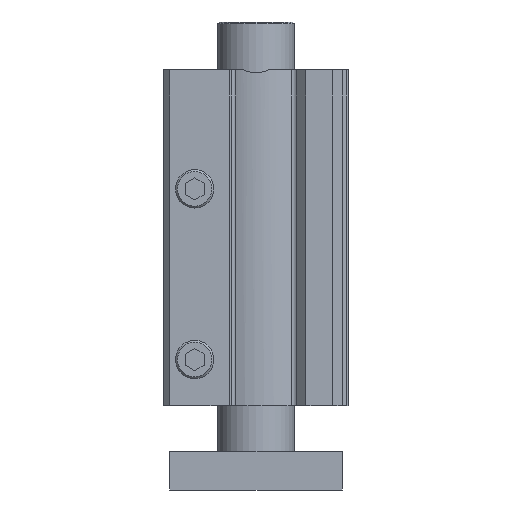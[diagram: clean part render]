
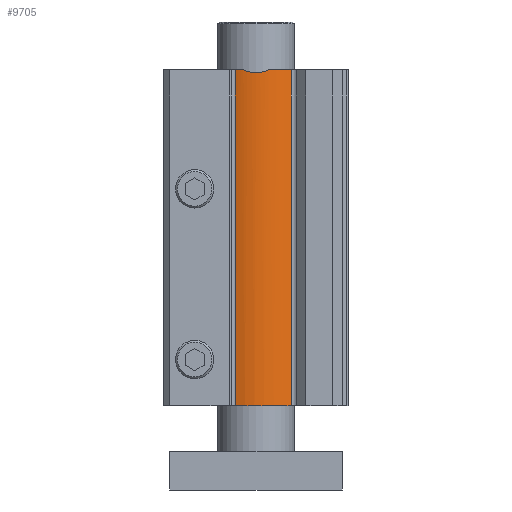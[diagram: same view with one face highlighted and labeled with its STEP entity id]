
A CAD part, left-side view. The second image highlights one B-rep face of the part: STEP entity #9705.
In plain terms, the highlighted cylindrical face has radius 17 mm (diameter 34 mm), a partial arc.
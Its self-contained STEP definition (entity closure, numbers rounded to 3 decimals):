
#23=B_SPLINE_CURVE_WITH_KNOTS('',3,(#14127,#14128,#14129,#14130,#14131,
#14132),.UNSPECIFIED.,.F.,.F.,(4,1,1,4),(0.,0.002,
0.003,0.007),.UNSPECIFIED.);
#188=CYLINDRICAL_SURFACE('',#10372,17.);
#596=LINE('',#14134,#1072);
#597=LINE('',#14135,#1073);
#1072=VECTOR('',#11827,1000.);
#1073=VECTOR('',#11828,1000.);
#2249=ORIENTED_EDGE('',*,*,#3773,.T.);
#2250=ORIENTED_EDGE('',*,*,#3660,.F.);
#2251=ORIENTED_EDGE('',*,*,#3774,.F.);
#2252=ORIENTED_EDGE('',*,*,#3542,.F.);
#2253=ORIENTED_EDGE('',*,*,#3775,.T.);
#2254=ORIENTED_EDGE('',*,*,#3664,.F.);
#3542=EDGE_CURVE('',#4393,#4394,#4904,.T.);
#3660=EDGE_CURVE('',#4491,#4492,#4953,.T.);
#3664=EDGE_CURVE('',#4495,#4496,#4955,.T.);
#3773=EDGE_CURVE('',#4495,#4492,#23,.T.);
#3774=EDGE_CURVE('',#4394,#4491,#596,.T.);
#3775=EDGE_CURVE('',#4393,#4496,#597,.T.);
#4393=VERTEX_POINT('',#13658);
#4394=VERTEX_POINT('',#13660);
#4491=VERTEX_POINT('',#13883);
#4492=VERTEX_POINT('',#13885);
#4495=VERTEX_POINT('',#13891);
#4496=VERTEX_POINT('',#13893);
#4904=CIRCLE('',#10250,17.);
#4953=CIRCLE('',#10308,17.);
#4955=CIRCLE('',#10310,17.);
#5386=EDGE_LOOP('',(#2249,#2250,#2251,#2252,#2253,#2254));
#6053=FACE_BOUND('',#5386,.T.);
#9705=ADVANCED_FACE('',(#6053),#188,.T.);
#10250=AXIS2_PLACEMENT_3D('',#13659,#11448,#11449);
#10308=AXIS2_PLACEMENT_3D('',#13884,#11633,#11634);
#10310=AXIS2_PLACEMENT_3D('',#13892,#11639,#11640);
#10372=AXIS2_PLACEMENT_3D('',#14133,#11825,#11826);
#11448=DIRECTION('',(0.,0.,-1.));
#11449=DIRECTION('',(0.949,-0.315,0.));
#11633=DIRECTION('',(0.,0.,1.));
#11634=DIRECTION('',(0.949,-0.315,0.));
#11639=DIRECTION('',(0.,0.,1.));
#11640=DIRECTION('',(0.949,-0.315,0.));
#11825=DIRECTION('',(0.,0.,1.));
#11826=DIRECTION('',(0.949,-0.315,0.));
#11827=DIRECTION('',(0.,0.,1.));
#11828=DIRECTION('',(0.,0.,1.));
#13658=CARTESIAN_POINT('',(-53.302,-9.189,0.));
#13659=CARTESIAN_POINT('',(-39.,0.,0.));
#13660=CARTESIAN_POINT('',(-55.135,5.355,0.));
#13883=CARTESIAN_POINT('',(-55.135,5.355,87.5));
#13884=CARTESIAN_POINT('',(-39.,0.,87.5));
#13885=CARTESIAN_POINT('',(-55.682,3.273,87.5));
#13891=CARTESIAN_POINT('',(-55.682,-3.273,87.5));
#13892=CARTESIAN_POINT('',(-39.,0.,87.5));
#13893=CARTESIAN_POINT('',(-53.302,-9.189,87.5));
#14127=CARTESIAN_POINT('',(-55.682,-3.273,87.5));
#14128=CARTESIAN_POINT('',(-55.782,-2.761,87.271));
#14129=CARTESIAN_POINT('',(-55.941,-1.707,86.923));
#14130=CARTESIAN_POINT('',(-56.059,0.575,86.678));
#14131=CARTESIAN_POINT('',(-55.883,2.25,87.042));
#14132=CARTESIAN_POINT('',(-55.682,3.273,87.5));
#14133=CARTESIAN_POINT('',(-39.,0.,0.));
#14134=CARTESIAN_POINT('',(-55.135,5.355,0.));
#14135=CARTESIAN_POINT('',(-53.302,-9.189,0.));
